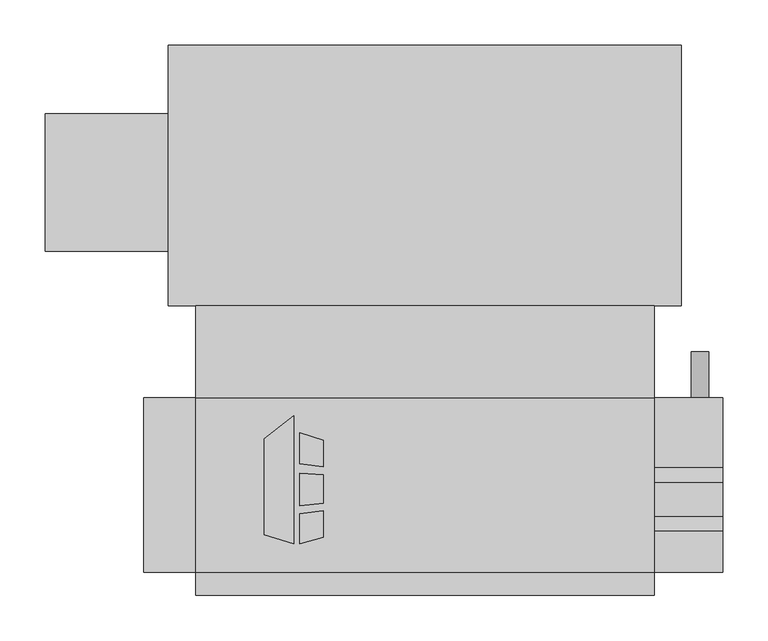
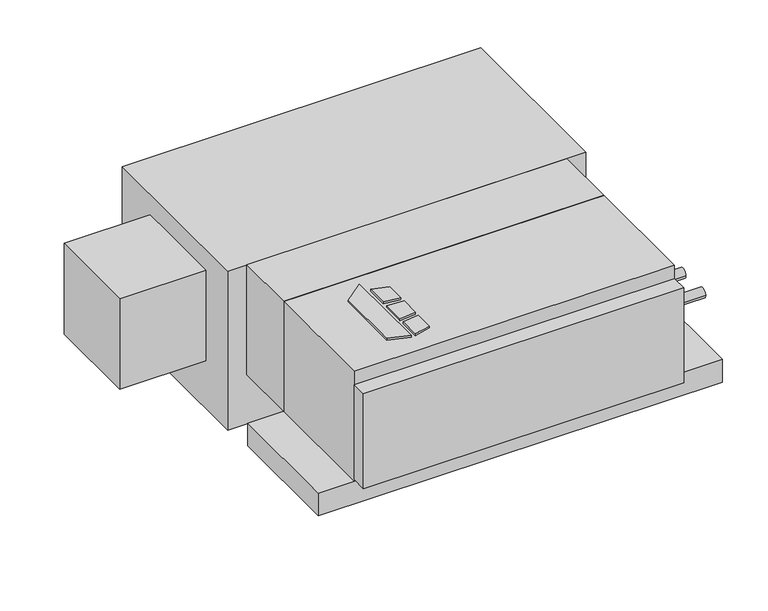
"""IFC4 building model written with IfcOpenShell, lengths in millimetres: proxy geometry, Concealed_Horizontal_Fan_Coil_Unit_With_Plenum_-_CPY_-_IEC_-_2-Pipe_Cool-EHeat_RH_2022 : Size 03 - 277v/60Hz/1Ph - 4 Row 3.0kW."""

import ifcopenshell
import ifcopenshell.guid

model = None  # the IFC model being written
_history = None  # IfcOwnerHistory: only IFC2X3 demands one
_inside = {}  # id of a spatial element -> (the spatial element, [elements in it])
_under = {}  # id of a project, library or spatial element -> (it, [spatial elements below it])
_declared = {}  # id of a project -> (the project, [libraries it declares])
_typed = {}  # id of a type object -> (the type object, [elements of that type])
_made_of = {}  # id of a material, layer set ... -> (it, [elements and type objects made of it])


def new_model(schema):
    """Start an empty IFC model of exactly this schema.

    Asked for "IFC4X3", IfcOpenShell would pick the latest addendum, in which some entities
    have other attributes; the version numbers below select the first issue.
    IFC2X3 requires an IfcOwnerHistory on every rooted entity: one is made here for all.
    """
    global model, _history
    if schema == "IFC4X3":
        model = ifcopenshell.file(schema_version=(4, 3, 0, 0))
    else:
        model = ifcopenshell.file(schema=schema)
    _inside.clear()
    _under.clear()
    _declared.clear()
    _typed.clear()
    _made_of.clear()
    _history = None
    if model.schema == "IFC2X3":
        org = make("IfcOrganization", Name="unknown")
        user = make(
            "IfcPersonAndOrganization",
            ThePerson=make("IfcPerson", FamilyName="unknown"),
            TheOrganization=org,
        )
        app = make(
            "IfcApplication",
            ApplicationDeveloper=org,
            Version="unknown",
            ApplicationFullName="unknown",
            ApplicationIdentifier="unknown",
        )
        _history = make(
            "IfcOwnerHistory",
            OwningUser=user,
            OwningApplication=app,
            ChangeAction="ADDED",
            CreationDate=0,
        )
    return model


def make(cls, **values):
    """One entity of the class cls with the attributes given. An attribute that is None is left unset."""
    return model.create_entity(
        cls, **{name: value for name, value in values.items() if value is not None}
    )


def rooted(cls, **values):
    """An entity with a GlobalId (a new one), such as an element, a storey or a relation."""
    return make(cls, GlobalId=ifcopenshell.guid.new(), OwnerHistory=_history, **values)


def si_unit(unit_type, name, prefix=None):
    """IfcSIUnit, for example si_unit("LENGTHUNIT", "METRE", prefix="MILLI")."""
    return make("IfcSIUnit", UnitType=unit_type, Prefix=prefix, Name=name)


def assignment(units):
    """IfcUnitAssignment: the units of a project."""
    return None if units is None else make("IfcUnitAssignment", Units=units)


def point(xyz):
    """IfcCartesianPoint."""
    return None if xyz is None else make("IfcCartesianPoint", Coordinates=xyz)


def direction(xyz):
    """IfcDirection."""
    return None if xyz is None else make("IfcDirection", DirectionRatios=xyz)


def frame(location, z_axis=None, x_axis=None):
    """IfcAxis2Placement3D, a coordinate frame: its origin and axes. An axis left out is left unset."""
    return make(
        "IfcAxis2Placement3D",
        Location=point(location),
        Axis=direction(z_axis),
        RefDirection=direction(x_axis),
    )


def frame_2d(location, x_axis=None):
    """IfcAxis2Placement2D, a coordinate frame in the plane: its origin and x axis."""
    return make(
        "IfcAxis2Placement2D", Location=point(location), RefDirection=direction(x_axis)
    )


def origin():
    """The frame at (0, 0, 0) with its axes left unset."""
    return frame((0.0, 0.0, 0.0))


def origin_with_axes():
    """The frame at (0, 0, 0) with the z axis (0, 0, 1) and the x axis (1, 0, 0) written out."""
    return frame((0.0, 0.0, 0.0), z_axis=(0.0, 0.0, 1.0), x_axis=(1.0, 0.0, 0.0))


def place(relative_to, where):
    """IfcLocalPlacement: puts the frame where relative to a parent placement (None: the world)."""
    return make(
        "IfcLocalPlacement", PlacementRelTo=relative_to, RelativePlacement=where
    )


def context(
    kind, dimensions, precision=None, world=None, true_north=None, identifier=None
):
    """IfcGeometricRepresentationContext, for example the 3D "Model" context."""
    return make(
        "IfcGeometricRepresentationContext",
        ContextIdentifier=identifier,
        ContextType=kind,
        CoordinateSpaceDimension=dimensions,
        Precision=precision,
        WorldCoordinateSystem=world,
        TrueNorth=true_north,
    )


def project(units=None, contexts=None):
    """IfcProject with its units and contexts."""
    return rooted(
        "IfcProject",
        Name="project",
        RepresentationContexts=contexts,
        UnitsInContext=assignment(units),
    )


def spatial(cls, under=None, at=None, **own):
    """A site, building, storey or space (cls), placed at a placement, below another one or the project."""
    s = rooted(cls, ObjectPlacement=at, **own)
    if under is not None:
        _under.setdefault(under.id(), (under, []))[1].append(s)
    return s


def polyline(points):
    """IfcPolyline through the points."""
    return make("IfcPolyline", Points=[point(p) for p in points])


def circle_curve(where, radius):
    """IfcCircle in the frame where."""
    return make("IfcCircle", Position=where, Radius=radius)


def trimmed(basis, trim1, trim2, sense, master):
    """IfcTrimmedCurve: the piece of a basis curve between two trims."""
    return make(
        "IfcTrimmedCurve",
        BasisCurve=basis,
        Trim1=trim1,
        Trim2=trim2,
        SenseAgreement=sense,
        MasterRepresentation=master,
    )


def segment(curve, same_sense, transition):
    """IfcCompositeCurveSegment."""
    return make(
        "IfcCompositeCurveSegment",
        Transition=transition,
        SameSense=same_sense,
        ParentCurve=curve,
    )


def composite_curve(segments, self_intersect=None):
    """IfcCompositeCurve: segments joined end to end."""
    return make("IfcCompositeCurve", Segments=segments, SelfIntersect=self_intersect)


def outline(outer, holes=None, kind="AREA"):
    """IfcArbitraryClosedProfileDef: a profile drawn as a closed curve; with holes, ...WithVoids."""
    if holes is None:
        return make("IfcArbitraryClosedProfileDef", ProfileType=kind, OuterCurve=outer)
    return make(
        "IfcArbitraryProfileDefWithVoids",
        ProfileType=kind,
        OuterCurve=outer,
        InnerCurves=holes,
    )


def extrude(swept, where, along, depth):
    """IfcExtrudedAreaSolid: the profile swept, set in the frame where, extruded along a direction by depth."""
    return make(
        "IfcExtrudedAreaSolid",
        SweptArea=swept,
        Position=where,
        ExtrudedDirection=direction(along),
        Depth=depth,
    )


def shape(context_of_items, identifier, shape_type, items):
    """IfcShapeRepresentation: the items that make up one representation, for example the "Body"."""
    return make(
        "IfcShapeRepresentation",
        ContextOfItems=context_of_items,
        RepresentationIdentifier=identifier,
        RepresentationType=shape_type,
        Items=items,
    )


def source(mapping_origin, context_of_items, identifier, shape_type, items):
    """IfcRepresentationMap: a shape defined once, which mapped items show again and again."""
    return make(
        "IfcRepresentationMap",
        MappingOrigin=mapping_origin,
        MappedRepresentation=shape(context_of_items, identifier, shape_type, items),
    )


def transform(
    local_origin,
    x_axis=None,
    y_axis=None,
    z_axis=None,
    scale=None,
    scale2=None,
    scale3=None,
    uniform=True,
):
    """IfcCartesianTransformationOperator3D, or its non-uniform kind. x_axis, y_axis, z_axis: its Axis1, 2, 3."""
    if uniform:
        return make(
            "IfcCartesianTransformationOperator3D",
            Axis1=direction(x_axis),
            Axis2=direction(y_axis),
            LocalOrigin=point(local_origin),
            Scale=scale,
            Axis3=direction(z_axis),
        )
    return make(
        "IfcCartesianTransformationOperator3DnonUniform",
        Axis1=direction(x_axis),
        Axis2=direction(y_axis),
        LocalOrigin=point(local_origin),
        Scale=scale,
        Axis3=direction(z_axis),
        Scale2=scale2,
        Scale3=scale3,
    )


def mapped(mapping_source, mapping_target):
    """IfcMappedItem: shows the shape of a source again, moved by a transform."""
    return make(
        "IfcMappedItem", MappingSource=mapping_source, MappingTarget=mapping_target
    )


def made_of(thing, what):
    """Note that an element or type object is made of a material, layer set ...; save() writes the relation."""
    if what is not None:
        _made_of.setdefault(what.id(), (what, []))[1].append(thing)
    return thing


def element(
    cls,
    number,
    at=None,
    inside=None,
    cuts=None,
    type_object=None,
    material=None,
    context=None,
    identifier="Body",
    shape_type=None,
    held_by="IfcProductDefinitionShape",
    body=None,
    shapes=None,
    **own,
):
    """One element of the class cls, such as IfcWall. Its Tag is "e" and its number.

    at: its placement. inside: the storey or other place that contains it. cuts: it is an
    opening in that element (IfcRelVoidsElement). A single representation is given by context,
    identifier, shape_type and body (its items); several are given by shapes. held_by: the class
    of the entity that holds the representations. save() writes the other relations.
    """
    e = rooted(cls, Tag="e%d" % number, ObjectPlacement=at, **own)
    if body is not None:
        shapes = [shape(context, identifier, shape_type, body)]
    if shapes is not None:
        e.Representation = make(held_by, Representations=shapes)
    if inside is not None:
        _inside.setdefault(inside.id(), (inside, []))[1].append(e)
    if cuts is not None:
        rooted(
            "IfcRelVoidsElement", RelatingBuildingElement=cuts, RelatedOpeningElement=e
        )
    if type_object is not None:
        _typed.setdefault(type_object.id(), (type_object, []))[1].append(e)
    return made_of(e, material)


def aggregate(whole, parts):
    """IfcRelAggregates: a whole, such as a stair, and the parts it consists of."""
    return rooted("IfcRelAggregates", RelatingObject=whole, RelatedObjects=parts)


def save(model, path):
    """Write the relations noted so far, then the file.

    IfcRelAggregates (storeys below a building ...), IfcRelContainedInSpatialStructure (elements
    in a storey), IfcRelDefinesByType, IfcRelAssociatesMaterial and IfcRelDeclares: one each for
    every whole, place, type object, material and project.
    """
    for whole, parts in _under.values():
        aggregate(whole, parts)
    for where, things in _inside.values():
        rooted(
            "IfcRelContainedInSpatialStructure",
            RelatedElements=things,
            RelatingStructure=where,
        )
    for kind, things in _typed.values():
        rooted("IfcRelDefinesByType", RelatedObjects=things, RelatingType=kind)
    for what, things in _made_of.values():
        rooted("IfcRelAssociatesMaterial", RelatedObjects=things, RelatingMaterial=what)
    for by, libraries in _declared.values():
        rooted("IfcRelDeclares", RelatingContext=by, RelatedDefinitions=libraries)
    model.write(path)


def mechanical_equipment_09d55095(model_context):
    return source(origin(), model_context, "Body", "SweptSolid", [
        extrude(outline(polyline([(-25.4, -186.6953476), (7.1582967, -161.2580184), (7.1582967, -303.2125), (-25.4, -292.9929201), (-25.4, -186.6953476)])), origin_with_axes(), (0.0, 0.0, 1.0), 3.175),
        extrude(outline(polyline([(13.9166297, -214.567352), (13.9166297, -180.0874379), (39.9980239, -188.2740115), (39.9980239, -217.7697446), (13.9166297, -214.567352)])), origin_with_axes(), (0.0, 0.0, 1.0), 3.175),
        extrude(outline(polyline([(39.9980239, -296.2240115), (13.9166297, -303.2125), (13.9166297, -269.9911996), (39.9980239, -266.4493564), (39.9980239, -296.2240115)])), origin_with_axes(), (0.0, 0.0, 1.0), 3.175),
        extrude(outline(polyline([(39.9980239, -226.8513277), (39.9980239, -258.101483), (13.9166297, -260.842748), (13.9166297, -224.9850378), (39.9980239, -226.8513277)])), origin_with_axes(), (0.0, 0.0, 1.0), 3.175),
        extrude(outline(composite_curve([segment(trimmed(circle_curve(frame_2d((-280.9875, -104.775)), 7.9375), [point((-273.05, -104.775))], [point((-288.925, -104.775))], False, "CARTESIAN"), True, "CONTINUOUS"), segment(trimmed(circle_curve(frame_2d((-280.9875, -104.775)), 7.9375), [point((-288.925, -104.775))], [point((-273.05, -104.775))], False, "CARTESIAN"), True, "CONTINUOUS")], self_intersect=False)), frame((406.4, 0.0, 0.0), z_axis=(1.0, 0.0, 0.0), x_axis=(0.0, 1.0, 0.0)), (0.0, 0.0, 1.0), 76.2),
        extrude(outline(composite_curve([segment(trimmed(circle_curve(frame_2d((-227.0125, -104.775)), 7.9375), [point((-219.075, -104.775))], [point((-234.95, -104.775))], False, "CARTESIAN"), True, "CONTINUOUS"), segment(trimmed(circle_curve(frame_2d((-227.0125, -104.775)), 7.9375), [point((-234.95, -104.775))], [point((-219.075, -104.775))], False, "CARTESIAN"), True, "CONTINUOUS")], self_intersect=False)), frame((406.4, 0.0, 0.0), z_axis=(1.0, 0.0, 0.0), x_axis=(0.0, 1.0, 0.0)), (0.0, 0.0, 1.0), 76.2),
        extrude(outline(composite_curve([segment(trimmed(circle_curve(frame_2d((-209.55, 457.2)), 9.525), [point((-209.55, 447.675))], [point((-209.55, 466.725))], False, "CARTESIAN"), True, "CONTINUOUS"), segment(trimmed(circle_curve(frame_2d((-209.55, 457.2)), 9.525), [point((-209.55, 466.725))], [point((-209.55, 447.675))], False, "CARTESIAN"), True, "CONTINUOUS")], self_intersect=False)), frame((0.0, -141.2875, 0.0), z_axis=(0.0, 1.0, 0.0), x_axis=(0.0, 0.0, 1.0)), (0.0, 0.0, 1.0), 50.8),
        extrude(outline(polyline([(-101.6, -39.6875), (406.4, -39.6875), (406.4, -141.2875), (-101.6, -141.2875), (-101.6, -39.6875)])), frame((0.0, 0.0, -184.15), z_axis=(0.0, 0.0, 1.0), x_axis=(1.0, 0.0, 0.0)), (0.0, 0.0, 1.0), 184.15),
        extrude(outline(polyline([(406.4, -360.3625), (-101.6, -360.3625), (-101.6, -334.9625), (406.4, -334.9625), (406.4, -360.3625)])), frame((0.0, 0.0, -180.975), z_axis=(0.0, 0.0, 1.0), x_axis=(1.0, 0.0, 0.0)), (0.0, 0.0, 1.0), 158.75),
        extrude(outline(polyline([(-268.2875, 20.6375), (-268.2875, 173.0375), (-131.7625, 173.0375), (-131.7625, 20.6375), (-268.2875, 20.6375)])), frame((0.0, 0.0, -187.325), z_axis=(0.0, 0.0, 1.0), x_axis=(1.0, 0.0, 0.0)), (0.0, 0.0, 1.0), 152.4),
        extrude(outline(polyline([(-131.7625, 249.2375), (436.5625, 249.2375), (436.5625, -39.6875), (-131.7625, -39.6875), (-131.7625, 249.2375)])), frame((0.0, 0.0, -266.7), z_axis=(0.0, 0.0, 1.0), x_axis=(1.0, 0.0, 0.0)), (0.0, 0.0, 1.0), 266.7),
        extrude(outline(polyline([(406.4, -141.2875), (406.4, -334.9625), (-101.6, -334.9625), (-101.6, -141.2875), (406.4, -141.2875)])), frame((0.0, 0.0, -184.15), z_axis=(0.0, 0.0, 1.0), x_axis=(1.0, 0.0, 0.0)), (0.0, 0.0, 1.0), 184.15),
        extrude(outline(polyline([(482.6, -141.2875), (482.6, -334.9625), (-158.75, -334.9625), (-158.75, -141.2875), (482.6, -141.2875)])), frame((0.0, 0.0, -222.25), z_axis=(0.0, 0.0, 1.0), x_axis=(1.0, 0.0, 0.0)), (0.0, 0.0, 1.0), 38.1),
    ])


if __name__ == "__main__":
    model = new_model("IFC4")
    model_context = context("Model", 3, world=origin())
    ifc_project = project(units=[si_unit("LENGTHUNIT", "METRE", prefix="MILLI")], contexts=[model_context])
    site = spatial("IfcSite", under=ifc_project)
    building = spatial("IfcBuilding", under=site)
    placement = place(None, origin())
    mechanical_equipment_shape = mechanical_equipment_09d55095(model_context)
    element("IfcBuildingElementProxy", 1, Name="Concealed_Horizontal_Fan_Coil_Unit_With_Plenum_-_CPY_-_IEC_-_2-Pipe_Cool-EHeat_RH_2022 : Size 03 - 277v/60Hz/1Ph - 4 Row 3.0kW", ObjectType="Concealed_Horizontal_Fan_Coil_Unit_With_Plenum_-_CPY_-_IEC_-_2-Pipe_Cool-EHeat_RH_2022 : Size 03 - 277v/60Hz/1Ph - 4 Row 3.0kW", at=placement, inside=building, context=model_context, shape_type="MappedRepresentation", body=[
        mapped(mechanical_equipment_shape, transform((0.0, 0.0, 0.0), x_axis=(1.0, 0.0, 0.0), y_axis=(0.0, 1.0, 0.0), z_axis=(0.0, 0.0, 1.0))),
    ])
    save(model, "model.ifc")
